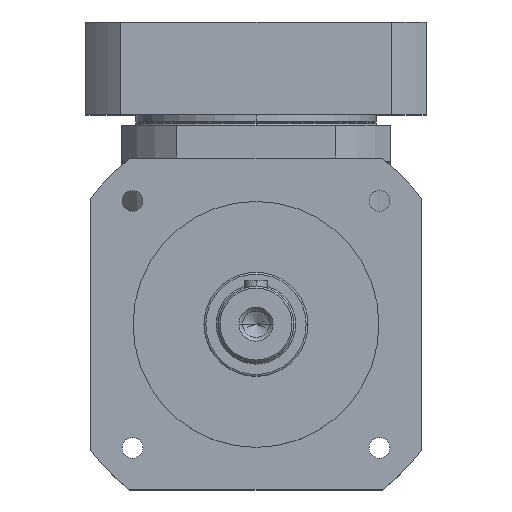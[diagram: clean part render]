
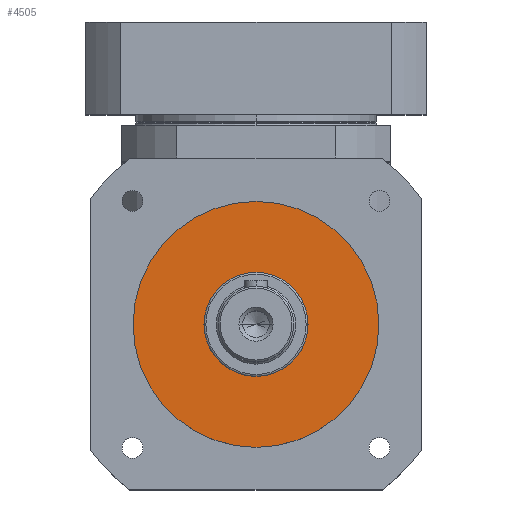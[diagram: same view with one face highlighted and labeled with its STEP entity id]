
A CAD part, top view. The second image highlights one B-rep face of the part: STEP entity #4505.
In plain terms, the highlighted planar face has unit normal (0, 0, 1).
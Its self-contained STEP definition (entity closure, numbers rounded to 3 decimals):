
#126 = CARTESIAN_POINT ( 'NONE',  ( 65., 0., 21. ) ) ;
#276 = AXIS2_PLACEMENT_3D ( 'NONE', #4943, #1971, #547 ) ;
#420 = FACE_OUTER_BOUND ( 'NONE', #1432, .T. ) ;
#517 = DIRECTION ( 'NONE',  ( 1., 0., 0. ) ) ;
#547 = DIRECTION ( 'NONE',  ( 1., 0., 0. ) ) ;
#680 = VERTEX_POINT ( 'NONE', #3823 ) ;
#736 = CIRCLE ( 'NONE', #2694, 65. ) ;
#945 = DIRECTION ( 'NONE',  ( 0., 0., 1. ) ) ;
#1120 = CARTESIAN_POINT ( 'NONE',  ( 0., 0., 21. ) ) ;
#1221 = EDGE_CURVE ( 'NONE', #680, #2723, #3649, .T. ) ;
#1240 = ORIENTED_EDGE ( 'NONE', *, *, #1221, .F. ) ;
#1427 = PLANE ( 'NONE',  #5155 ) ;
#1432 = EDGE_LOOP ( 'NONE', ( #6048, #3708 ) ) ;
#1515 = CIRCLE ( 'NONE', #5092, 27.5 ) ;
#1574 = DIRECTION ( 'NONE',  ( 0., 0., 1. ) ) ;
#1593 = VERTEX_POINT ( 'NONE', #126 ) ;
#1822 = CARTESIAN_POINT ( 'NONE',  ( -65., 0., 21. ) ) ;
#1970 = DIRECTION ( 'NONE',  ( 0., 0., 1. ) ) ;
#1971 = DIRECTION ( 'NONE',  ( 0., 0., 1. ) ) ;
#2080 = AXIS2_PLACEMENT_3D ( 'NONE', #1120, #1574, #3522 ) ;
#2112 = DIRECTION ( 'NONE',  ( 1., 0., 0. ) ) ;
#2248 = VERTEX_POINT ( 'NONE', #1822 ) ;
#2509 = EDGE_CURVE ( 'NONE', #2723, #680, #1515, .T. ) ;
#2594 = CARTESIAN_POINT ( 'NONE',  ( 0., 0., 21. ) ) ;
#2694 = AXIS2_PLACEMENT_3D ( 'NONE', #5304, #945, #517 ) ;
#2723 = VERTEX_POINT ( 'NONE', #3632 ) ;
#2873 = FACE_BOUND ( 'NONE', #5521, .T. ) ;
#3079 = EDGE_CURVE ( 'NONE', #2248, #1593, #736, .T. ) ;
#3378 = CARTESIAN_POINT ( 'NONE',  ( 0., 0., 21. ) ) ;
#3522 = DIRECTION ( 'NONE',  ( 1., 0., 0. ) ) ;
#3632 = CARTESIAN_POINT ( 'NONE',  ( -27.5, 0., 21. ) ) ;
#3649 = CIRCLE ( 'NONE', #276, 27.5 ) ;
#3708 = ORIENTED_EDGE ( 'NONE', *, *, #3755, .T. ) ;
#3755 = EDGE_CURVE ( 'NONE', #1593, #2248, #4228, .T. ) ;
#3823 = CARTESIAN_POINT ( 'NONE',  ( 27.5, 0., 21. ) ) ;
#3919 = DIRECTION ( 'NONE',  ( 1., 0., 0. ) ) ;
#4228 = CIRCLE ( 'NONE', #2080, 65. ) ;
#4505 = ADVANCED_FACE ( 'NONE', ( #2873, #420 ), #1427, .T. ) ;
#4539 = DIRECTION ( 'NONE',  ( 0., 0., 1. ) ) ;
#4943 = CARTESIAN_POINT ( 'NONE',  ( 0., 0., 21. ) ) ;
#5092 = AXIS2_PLACEMENT_3D ( 'NONE', #2594, #4539, #2112 ) ;
#5155 = AXIS2_PLACEMENT_3D ( 'NONE', #3378, #1970, #3919 ) ;
#5304 = CARTESIAN_POINT ( 'NONE',  ( 0., 0., 21. ) ) ;
#5366 = ORIENTED_EDGE ( 'NONE', *, *, #2509, .F. ) ;
#5521 = EDGE_LOOP ( 'NONE', ( #5366, #1240 ) ) ;
#6048 = ORIENTED_EDGE ( 'NONE', *, *, #3079, .T. ) ;
